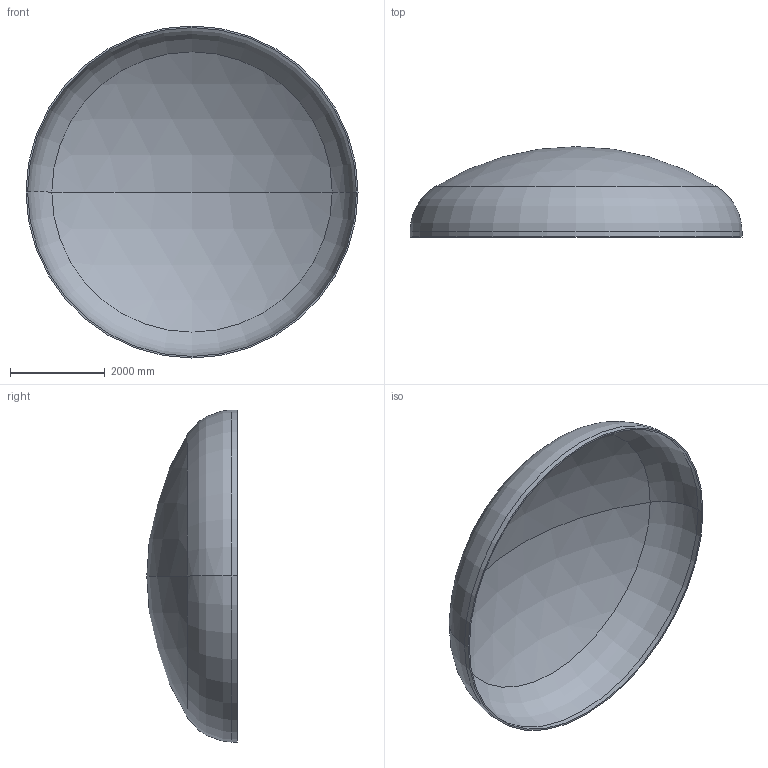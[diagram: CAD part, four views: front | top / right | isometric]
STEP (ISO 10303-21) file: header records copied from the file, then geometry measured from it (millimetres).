
FILE_DESCRIPTION (( 'STEP AP203' ), '1' );
FILE_NAME ('DIN 28013 Korbbogenform_-_Boden DIN 28013 - 7000 x 110 - I - s=34.step', '2016-07-04T10:46:46', ( '' ), ( '' ), 'SwSTEP 2.0', 'SolidWorks 2013', '' );
FILE_SCHEMA (( 'CONFIG_CONTROL_DESIGN' ));
Length unit declared in the file: millimetre
Products named in the file (1): DIN 28013 Korbbogenform_-_Boden DIN 28013 - 7000 x 110 - I - s=34
Bounding box: 7000 x 1905.07 x 7000 mm (x, y, z)
Volume: 1883182829.6 mm3; surface area: 111521905.3 mm2
Topology: 1 solids, 1 shells, 13 faces, 24 edges, 14 vertices
Faces by surface type: torus 4, cylinder 4, sphere 4, plane 1
Entity records: 407 total; most frequent: DIRECTION 72, CARTESIAN_POINT 52, ORIENTED_EDGE 48, AXIS2_PLACEMENT_3D 34, EDGE_CURVE 24, CIRCLE 20, EDGE_LOOP 14, VERTEX_POINT 14
